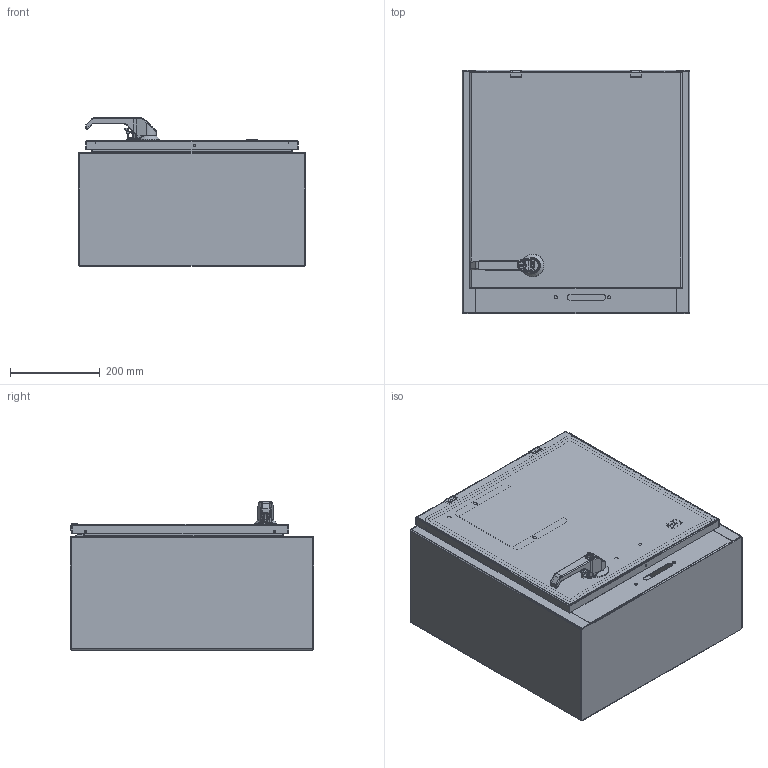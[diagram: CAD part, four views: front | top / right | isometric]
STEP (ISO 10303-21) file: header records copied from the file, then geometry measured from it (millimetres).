
FILE_DESCRIPTION((''),'2;1');
FILE_NAME('MODEL-314_ASM','2024-01-19T07:26:16',('JoelB'),('SAGINAW CONTROL & ENGINEERING'),'CREO PARAMETRIC BY PTC INC, 2021284','CREO PARAMETRIC BY PTC INC, 2021284','');
FILE_SCHEMA(('AUTOMOTIVE_DESIGN { 1 0 10303 214 1 1 1 1 }'));
Length unit declared in the file: inch
Products named in the file (48): MODEL-314-BDY; MODEL-314-LS; MODEL-314-RS; MODEL-314-DR; 100837; 100882; 111541; 100953_HANDLE; 100953_HANDLE_INSERT; 100953_SHAFT_CAM; 100953_ADAPTER_CAM; 100953_NUT_CAM; 100953_BASE; 100953_O-RING; 100953_WASHER_SEALING; 100953_NUT_MOUNTING_LARGE; 100953_NUT_MOUNTING_SMALL; 100953_SCREW_SMALL; 100953_INSERT; 100953_PADLOCK_CATCH; 100953_ASM; 128142; 100030; 128142_ASM; MODEL-314-ROD-UPR; 128146; 128145; 128144; 102482; MODEL-314-ROD-UPR_ASM; 128143; 112504; MODEL-314-GSKT; 126391; 126391_ASM; 126393; 102483; 101226; 101376; 102140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
Assembly tree (73 placements, depth 4):
  MODEL-314_ASM
    MODEL-314-BDY
    MODEL-314-LS
    MODEL-314-RS
    MODEL-314-DOOR-ASSY_ASM
      MODEL-314-DR
      100837  x6
      100882  x3
      111541
      100953_ASM
        100953_HANDLE
        100953_HANDLE_INSERT
        100953_SHAFT_CAM
        100953_ADAPTER_CAM
        100953_NUT_CAM
        100953_BASE
        100953_O-RING
        100953_WASHER_SEALING
        100953_NUT_MOUNTING_LARGE
        100953_NUT_MOUNTING_SMALL
        100953_SCREW_SMALL
        100953_INSERT
        100953_PADLOCK_CATCH
      128142_ASM
        128142
        100030  x2
      MODEL-314-ROD-UPR_ASM
        MODEL-314-ROD-UPR
        128146
        128145
        128144
        102482  x2
      128143
      112504
      MODEL-314-GSKT
      126391_ASM  x2
        126391
      126393  x2
      102483  x6
      101226  x2
      101376  x2
      102140  x2
    100837
    102022
    101651  x4
    122191
    SUBPANEL-SUBASSEMBLY_ASM
      SUBPANEL
      100904  x4
Bounding box: 508 x 542.92 x 331.13 mm (x, y, z)
Volume: 3281154.5 mm3; surface area: 3018457.2 mm2
Topology: 67 solids, 67 shells, 4990 faces, 12716 edges, 7869 vertices
Faces by surface type: plane 1773, cylinder 1368, bspline 806, cone 525, torus 368, sphere 150
Entity records: 194786 total; most frequent: CARTESIAN_POINT 68918, ORIENTED_EDGE 19200, DIRECTION 17669, PRESENTATION_STYLE_ASSIGNMENT 9786, STYLED_ITEM 9640, CURVE_STYLE 9600, EDGE_CURVE 9600, AXIS2_PLACEMENT_3D 6652
